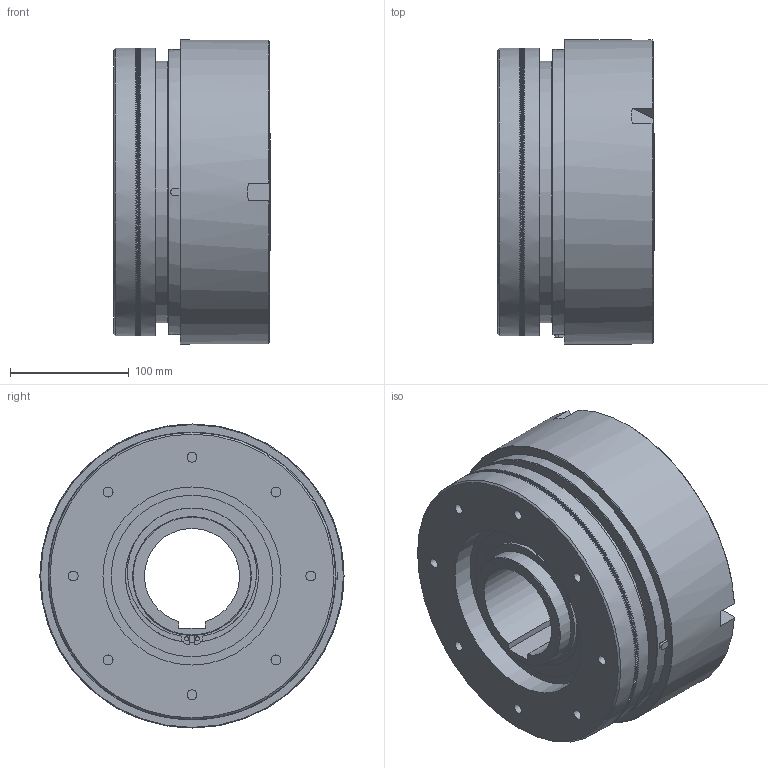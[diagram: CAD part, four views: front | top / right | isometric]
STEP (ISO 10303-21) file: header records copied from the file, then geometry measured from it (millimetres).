
FILE_DESCRIPTION(/* description */ (''),/* implementation_level */ '2;1');
FILE_NAME(/* name */ 'X:\INVENTOR\DISEGNI\03_Friz_Oleod_Pneum_Cil_Stat\03_25 DP\03_25_08_08 DP-08\03_25_08_01 DP08.stp',/* time_stamp */ '2023-02-02T08:23:29+01:00',/* author */ ('alessio'),/* organization */ (''),/* preprocessor_version */ 'ST-DEVELOPER v18.1',/* originating_system */ 'Autodesk Inventor 2021',/* authorisation */ '');
FILE_SCHEMA (('AUTOMOTIVE_DESIGN { 1 0 10303 214 3 1 1 }'));
Products named in the file (1): 03_25_08_01 DP08
Bounding box: 132 x 256 x 256 mm (x, y, z)
Volume: 4640050.7 mm3; surface area: 739811.6 mm2
Topology: 2 solids, 10 shells, 4059 faces, 12233 edges, 8128 vertices
Faces by surface type: plane 3007, cylinder 545, torus 325, bspline 117, sphere 39, cone 26
Full cylindrical faces by diameter (mm): 3.5 x4, 4 x2, 7.5 x9, 8.376 x8, 12 x1, 14.95 x1, 96.5 x2, 100 x6, 112 x1, 116 x3, 134 x3, 136 x1, 138 x1, 140 x2, 150 x5, 160 x3, 162 x1, 162.4 x2, 162.934 x1, 165 x1, 171.152 x1, 175 x2, 187.6 x2, 190 x1, 210 x2, 211 x1, 220 x3, 223.456 x1, 224 x2, 228 x1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
Entity records: 169899 total; most frequent: CARTESIAN_POINT 50460, DIRECTION 26766, ORIENTED_EDGE 24308, EDGE_CURVE 12154, AXIS2_PLACEMENT_3D 11590, VERTEX_POINT 8128, ELLIPSE 4325, EDGE_LOOP 4228
